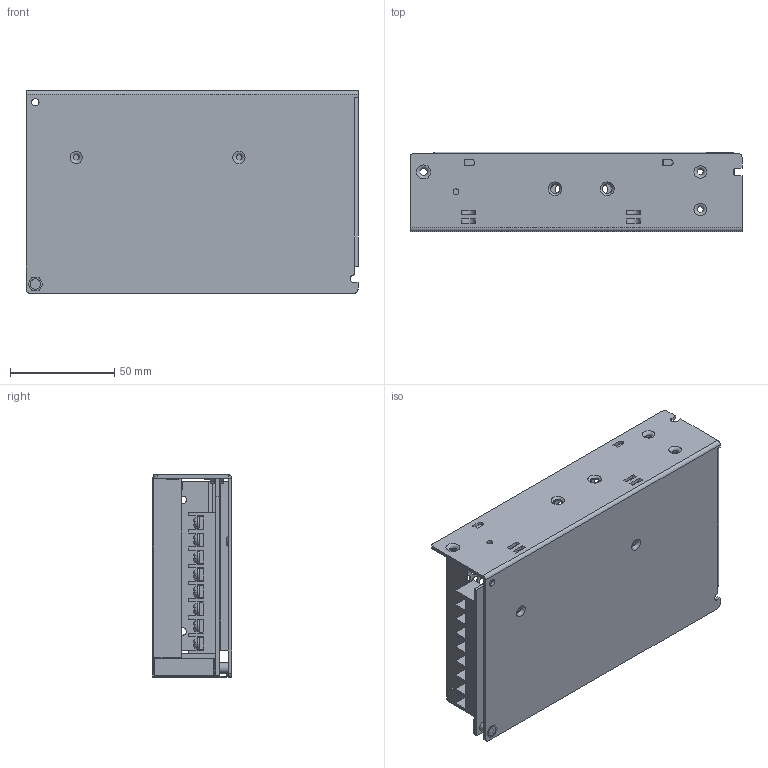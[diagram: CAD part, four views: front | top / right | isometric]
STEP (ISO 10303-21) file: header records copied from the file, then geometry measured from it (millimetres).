
FILE_DESCRIPTION((''),'2;1');
FILE_NAME('C:\Users\shirley\Desktop\RT-85.stp','2020-05-22T15:54:20',('shirley'),(''),'Autodesk Inventor 2010','Autodesk Inventor 2010','');
FILE_SCHEMA(('AUTOMOTIVE_DESIGN { 1 0 10303 214 1 1 1 1 }'));
Length unit declared in the file: millimetre
Products named in the file (6): RT-85; RS-100-CASE-D; CUUU; RS-100-PCB; RS-100-CASE-T; TN1
Assembly tree (5 placements, depth 2):
  RT-85
    RS-100-CASE-D
    CUUU
    RS-100-PCB
    RS-100-CASE-T
    TN1
Bounding box: 159 x 38 x 97 mm (x, y, z)
Volume: 76734.2 mm3; surface area: 117112.9 mm2
Topology: 5 solids, 5 shells, 1089 faces, 3142 edges, 2025 vertices
Faces by surface type: cylinder 615, plane 418, bspline 44, cone 7, torus 5
Full cylindrical faces by diameter (mm): 2.65 x2, 2.8 x4, 3.5 x3, 4 x1, 4.5 x482, 5 x2, 5.6 x8
Entity records: 37477 total; most frequent: CARTESIAN_POINT 7935, DIRECTION 5851, ORIENTED_EDGE 5228, EDGE_LOOP 2631, EDGE_CURVE 2614, AXIS2_PLACEMENT_3D 2327, VERTEX_POINT 2019, FACE_BOUND 1542
